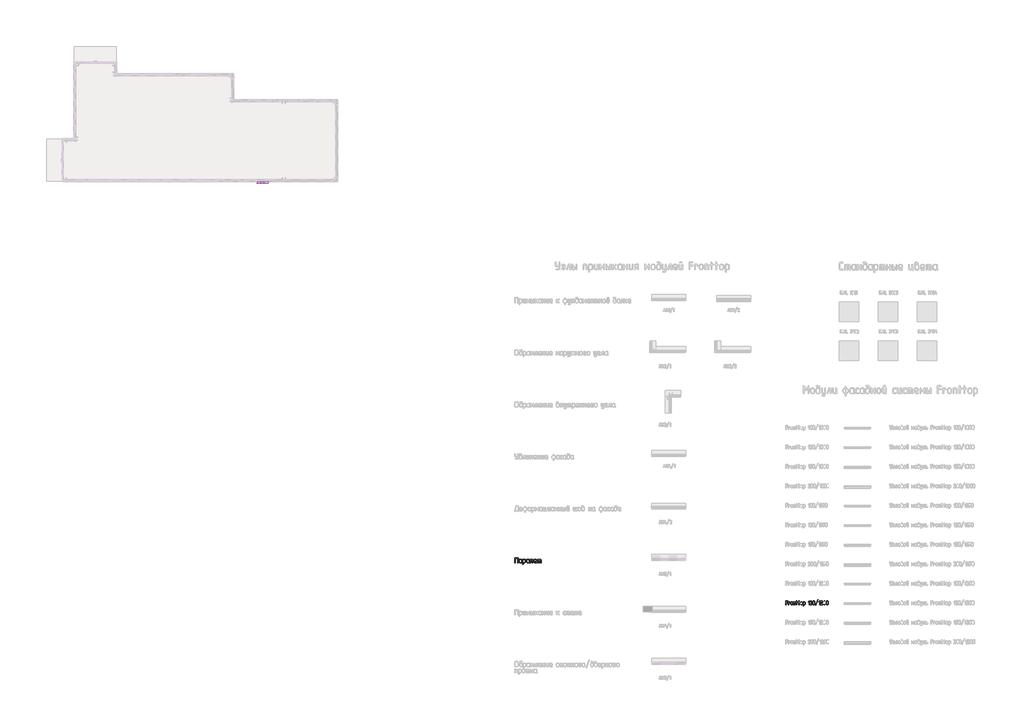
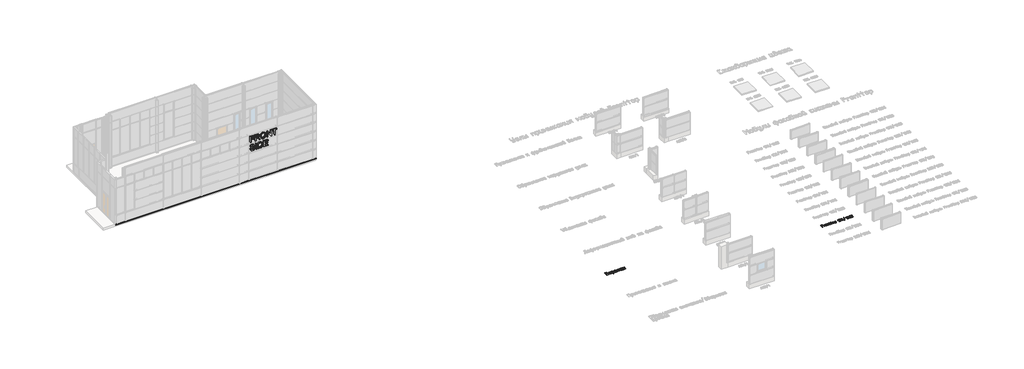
# One storey, part 10 of 37: 6 proxies.
"""IFC4 building model written with IfcOpenShell, lengths in millimetres."""

from ifc_helpers import new_model, si_unit, frame, origin, origin_with_axes, place, context, project, spatial, polyline, outline, extrude, transform, mapped, element, save
from components import generic_models_17d95e17, generic_models_e590158f

model = new_model("IFC4")

# Units and contexts
model_context = context("Model", 3, world=origin())
ifc_project = project(units=[si_unit("LENGTHUNIT", "METRE", prefix="MILLI")], contexts=[model_context])

# Site, building, storey
site = spatial("IfcSite", under=ifc_project)
building = spatial("IfcBuilding", under=site)
storey = spatial("IfcBuildingStorey", under=building, Name="Этаж 01", Elevation=0.0)

# Proxies
placement = place(None, origin())
element("IfcBuildingElementProxy", 1, Name="600 мм Arial", ObjectType="600 мм Arial", at=placement, inside=storey, context=model_context, shape_type="SweptSolid", body=[
    extrude(outline(polyline([(4280.0307982, 14627.1251164), (4280.0307982, 14702.467349), (4553.1463914, 14702.467349), (4553.1463914, 14985.0007213), (4628.488624, 14985.0007213), (4628.488624, 14702.467349), (4807.4264265, 14702.467349), (4807.4264265, 15032.0896166), (4882.7686591, 15032.0896166), (4882.7686591, 14627.1251164), (4280.0307982, 14627.1251164)])), frame((0.0, -300.0, 0.0), z_axis=(0.0, 1.0, 0.0), x_axis=(0.0, 0.0, 1.0)), (0.0, 0.0, 1.0), 150.0),
    extrude(outline(polyline([(4280.0307982, 15135.6851865), (4280.0307982, 15211.0274191), (4543.7286123, 15211.0274191), (4543.7286123, 15301.9678483), (4541.0798619, 15345.6722293), (4526.7324641, 15381.5039357), (4511.778061, 15400.2475233), (4487.6633962, 15421.3087675), (4404.9635237, 15477.9625948), (4280.0307982, 15556.3950362), (4280.0307982, 15643.950951), (4443.370404, 15543.4455899), (4484.3156701, 15513.2424781), (4520.9199286, 15482.3771787), (4536.9227954, 15464.3877492), (4553.1463914, 15439.5557145), (4561.1202336, 15479.4479184), (4573.1223837, 15513.775907), (4589.1528417, 15542.5396805), (4609.2116075, 15565.7392388), (4632.55372, 15583.6045082), (4658.4342184, 15596.3654149), (4686.8531025, 15604.021959), (4717.8103724, 15606.5741403), (4742.2147443, 15605.0336345), (4765.5430613, 15600.4121169), (4787.7953235, 15592.7095876), (4808.9715308, 15581.9260466), (4828.0462123, 15568.5627332), (4843.9938968, 15553.1208864), (4856.8145843, 15535.6005064), (4866.5082749, 15516.0015931), (4878.703563, 15465.2154837), (4882.7686591, 15395.4098751), (4882.7686591, 15135.6851865), (4280.0307982, 15135.6851865)]), holes=[polyline([(4619.0708449, 15211.0274191), (4807.4264265, 15211.0274191), (4807.4264265, 15398.6472366), (4805.7985486, 15430.7679333), (4800.9149151, 15458.262514), (4792.775526, 15481.1309785), (4781.3803812, 15499.3733269), (4767.4652447, 15513.311456), (4751.7658806, 15523.2672625), (4734.2822888, 15529.2407464), (4715.0144693, 15531.2319077), (4688.3982069, 15527.0564471), (4663.8788719, 15514.5300651), (4643.608574, 15493.9654616), (4629.7394228, 15465.6753362), (4621.7379894, 15428.0961904), (4619.0708449, 15379.6645257), (4619.0708449, 15211.0274191)])]), frame((0.0, -300.0, 0.0), z_axis=(0.0, 1.0, 0.0), x_axis=(0.0, 0.0, 1.0)), (0.0, 0.0, 1.0), 150.0),
    extrude(outline(polyline([(4573.4534775, 15710.1697102), (4534.3890082, 15712.3218198), (4496.3638054, 15718.7781488), (4459.3778693, 15729.5386972), (4423.4311999, 15744.6034649), (4389.8711649, 15763.8436933), (4360.0451321, 15787.1306235), (4333.9531016, 15814.4642558), (4311.5950734, 15845.84459), (4293.6654246, 15880.3703152), (4280.8585327, 15917.1401206), (4273.1743975, 15956.1540062), (4270.6130191, 15997.411972), (4272.9306757, 16035.8878302), (4279.8836454, 16073.0301161), (4291.4719282, 16108.8388298), (4307.6955242, 16143.3139713), (4328.4256746, 16175.2001432), (4353.5336208, 16203.2419483), (4383.0193627, 16227.4393865), (4416.8829004, 16247.7924579), (4454.1401494, 16263.9194849), (4493.8070256, 16275.4387898), (4535.8835288, 16282.3503728), (4580.369659, 16284.6542338), (4624.2763752, 16282.465336), (4665.7918583, 16275.8986423), (4704.9161085, 16264.954153), (4741.6491257, 16249.6318679), (4775.2275548, 16230.1341221), (4804.8880407, 16206.6632508), (4830.6305833, 16179.219254), (4852.4551827, 16147.8021316), (4869.8376069, 16113.3775739), (4882.2536243, 16076.9112711), (4889.7032347, 16038.4032233), (4892.1864381, 15997.8534304), (4886.8981345, 15937.2724628), (4871.0332234, 15882.5224249), (4844.591705, 15833.6033166), (4807.5735792, 15790.5151379), (4785.4063898, 15771.6841783), (4761.2112508, 15755.3640133), (4706.7371244, 15730.2560671), (4644.1511999, 15715.1912994), (4573.4534775, 15710.1697102)]), holes=[polyline([(4572.7177135, 15785.5119428), (4633.7907233, 15789.4390831), (4685.455151, 15801.220504), (4727.7109966, 15820.8562055), (4760.5582603, 15848.3461875), (4785.1833613, 15881.2808232), (4802.7727192, 15917.2504852), (4813.3263339, 15956.2551738), (4816.8442055, 15998.2948888), (4815.0185911, 16028.2174906), (4809.5417479, 16056.6225791), (4800.4136759, 16083.5101544), (4787.6343751, 16108.8802165), (4771.5349393, 16132.0153955), (4752.4464623, 16152.1983215), (4730.368944, 16169.4289944), (4705.3023846, 16183.7074143), (4677.6100674, 16194.9094211), (4647.6552759, 16202.9108545), (4615.4380102, 16207.7117145), (4580.9582702, 16209.3120012), (4527.8820954, 16205.5734004), (4481.2254613, 16194.3575981), (4440.9883681, 16175.6645942), (4407.1708157, 16149.4943888), (4380.3890065, 16117.5300419), (4361.2591427, 16081.4546138), (4349.7812245, 16041.2681043), (4345.9552517, 15996.9705136), (4349.7444363, 15953.4178839), (4361.1119899, 15913.700424), (4380.0579127, 15877.8181339), (4406.5822045, 15845.7710136), (4439.7007811, 15819.4076701), (4478.4295582, 15800.5767105), (4522.7685356, 15789.2781347), (4572.7177135, 15785.5119428)])]), frame((0.0, -300.0, 0.0), z_axis=(0.0, 1.0, 0.0), x_axis=(0.0, 0.0, 1.0)), (0.0, 0.0, 1.0), 150.0),
    extrude(outline(polyline([(4280.0307982, 16388.2498037), (4280.0307982, 16463.5920363), (4757.6887807, 16463.5920363), (4280.0307982, 16778.4990241), (4280.0307982, 16859.1387575), (4882.7686591, 16859.1387575), (4882.7686591, 16783.7965249), (4405.2578293, 16783.7965249), (4882.7686591, 16468.889537), (4882.7686591, 16388.2498037), (4280.0307982, 16388.2498037)])), frame((0.0, -300.0, 0.0), z_axis=(0.0, 1.0, 0.0), x_axis=(0.0, 0.0, 1.0)), (0.0, 0.0, 1.0), 150.0),
    extrude(outline(polyline([(4280.0307982, 17141.6721298), (4280.0307982, 17217.0143624), (4807.4264265, 17217.0143624), (4807.4264265, 17414.787723), (4882.7686591, 17414.787723), (4882.7686591, 16943.8987692), (4807.4264265, 16943.8987692), (4807.4264265, 17141.6721298), (4280.0307982, 17141.6721298)])), frame((0.0, -300.0, 0.0), z_axis=(0.0, 1.0, 0.0), x_axis=(0.0, 0.0, 1.0)), (0.0, 0.0, 1.0), 150.0),
])
element("IfcBuildingElementProxy", 2, Name="600 мм Arial", ObjectType="600 мм Arial", at=placement, inside=storey, context=model_context, shape_type="SweptSolid", body=[
    extrude(outline(polyline([(3538.3785756, 14621.2528081), (3507.1270001, 14623.8923614), (3477.5308936, 14630.1923406), (3449.590256, 14640.1527456), (3423.3050875, 14653.7735765), (3399.4479401, 14670.6823527), (3378.7913661, 14690.5065937), (3361.3353654, 14713.2462995), (3347.0799381, 14738.9014702), (3336.00669, 14767.6468496), (3328.0972271, 14799.6571817), (3323.3515494, 14834.9324665), (3321.7696568, 14873.472704), (3327.6373746, 14933.6030161), (3334.9720219, 14961.3091289), (3345.2405281, 14987.4425461), (3358.1531861, 15011.3088906), (3373.4202889, 15032.2137849), (3391.0418365, 15050.1572293), (3411.0178288, 15065.1392235), (3432.5159329, 15076.9528341), (3454.7038158, 15085.3911273), (3477.5814773, 15090.4541033), (3501.1489176, 15092.141762), (3546.5823441, 15086.2740441), (3567.1745387, 15078.9393968), (3586.3503877, 15068.6708907), (3604.0179205, 15055.3121757), (3620.0851667, 15038.7069022), (3647.4187989, 14995.7566792), (3665.0403465, 14945.5039987), (3685.237068, 14862.4362442), (3706.5006474, 14781.9436636), (3716.9668901, 14755.9344066), (3727.3227683, 14739.416505), (3738.2580606, 14728.9226711), (3750.6096986, 14721.4270754), (3764.3776822, 14716.929718), (3779.5620116, 14715.4305989), (3797.2111503, 14717.5459204), (3813.5175198, 14723.8918848), (3828.4811199, 14734.4684921), (3842.1019508, 14749.2757424), (3853.4327162, 14768.7091088), (3861.5261201, 14793.1640645), (3866.3821625, 14822.6406093), (3868.0008432, 14857.1387434), (3866.3637684, 14890.5700197), (3861.4525437, 14919.6418944), (3853.2671693, 14944.3543674), (3841.8076452, 14964.7074388), (3827.1475477, 14981.0046112), (3809.3604532, 14993.5493872), (3788.4463618, 15002.3417669), (3764.4052734, 15007.3817503), (3764.4052734, 15082.7239829), (3790.0558455, 15080.0844296), (3814.3268601, 15074.2259088), (3837.2183173, 15065.1484206), (3858.730217, 15052.8519649), (3878.2923421, 15037.4561034), (3895.3344755, 15019.0803977), (3909.8566172, 14997.7248479), (3921.8587673, 14973.3894539), (3937.9719987, 14917.7656962), (3943.3430759, 14854.1956875), (3938.211122, 14795.5185092), (3922.8152605, 14742.5067137), (3911.3557364, 14718.9208793), (3897.5049793, 14698.3424802), (3881.2629892, 14680.7715164), (3862.6297661, 14666.2079879), (3842.428446, 14654.7806535), (3821.4821649, 14646.6182717), (3799.7909228, 14641.7208426), (3777.3547196, 14640.0883663), (3737.8809815, 14645.3674729), (3702.4539454, 14661.2047928), (3671.7357988, 14687.784267), (3646.3887293, 14725.2898364), (3628.2705411, 14771.3670563), (3609.2326478, 14843.3799568), (3580.4642758, 14953.0823678), (3564.8476851, 14985.2352542), (3546.2512503, 15004.2915415), (3524.454242, 15013.6725324), (3499.2359313, 15016.7995293), (3473.3554329, 15012.6240687), (3448.6889451, 15000.0976868), (3427.2046366, 14979.0364425), (3410.870676, 14949.256395), (3400.5515861, 14912.5049837), (3397.1118894, 14870.5296481), (3401.6552321, 14822.8521415), (3415.28526, 14780.17783), (3436.2913219, 14745.2658287), (3462.9627665, 14720.8752524), (3496.5687868, 14705.2402676), (3538.3785756, 14696.5950407), (3538.3785756, 14621.2528081)])), frame((0.0, -300.0, 0.0), z_axis=(0.0, 1.0, 0.0), x_axis=(0.0, 0.0, 1.0)), (0.0, 0.0, 1.0), 150.0),
    extrude(outline(polyline([(15289.9151226, -300.0), (15214.5728899, -300.0), (15214.5728899, -150.0), (15289.9151226, -150.0), (15289.9151226, -300.0)])), frame((0.0, 0.0, 3331.1874359), z_axis=(0.0, 0.0, 1.0), x_axis=(1.0, 0.0, 0.0)), (0.0, 0.0, 1.0), 602.7378609),
    extrude(outline(polyline([(3331.1874359, 15440.5995878), (3331.1874359, 15658.5328817), (3333.7626098, 15710.1283315), (3341.4881317, 15755.4329993), (3354.1984547, 15794.5204612), (3371.7280317, 15827.4642939), (3395.3644499, 15856.1590895), (3426.3952962, 15882.4994404), (3465.7034874, 15905.3817005), (3514.1719403, 15923.7022238), (3571.101679, 15935.7319651), (3635.7937279, 15939.7418788), (3711.9453009, 15933.8189787), (3746.6549671, 15926.4153536), (3779.1205532, 15916.0502783), (3809.0661476, 15902.705359), (3836.2158389, 15886.3622013), (3860.5696269, 15867.0208054), (3882.1275119, 15844.6811713), (3908.5046509, 15804.1405754), (3925.2432817, 15756.0951868), (3931.754793, 15710.6617604), (3933.9252968, 15648.5264915), (3933.9252968, 15440.5995878), (3331.1874359, 15440.5995878)]), holes=[polyline([(3406.5296685, 15515.9418204), (3858.5830642, 15515.9418204), (3858.5830642, 15647.2021163), (3855.5664318, 15710.6985486), (3846.5165347, 15754.0350477), (3835.9951097, 15776.1953394), (3821.3534063, 15796.6173886), (3802.5914245, 15815.3011954), (3779.7091644, 15832.2467598), (3752.0812266, 15846.3136476), (3719.0822116, 15856.3614246), (3680.7121195, 15862.3900908), (3636.9709503, 15864.3996462), (3575.0012282, 15860.297762), (3523.0011082, 15847.9921092), (3480.7866492, 15828.3288166), (3448.1739103, 15802.1540126), (3430.5523628, 15777.8002246), (3417.4189755, 15746.2359494), (3409.2519953, 15704.4077665), (3406.5296685, 15649.2622554), (3406.5296685, 15515.9418204)])]), frame((0.0, -300.0, 0.0), z_axis=(0.0, 1.0, 0.0), x_axis=(0.0, 0.0, 1.0)), (0.0, 0.0, 1.0), 150.0),
    extrude(outline(polyline([(3331.1874359, 16043.3374487), (3331.1874359, 16485.9730653), (3406.5296685, 16485.9730653), (3406.5296685, 16118.6796813), (3604.3030291, 16118.6796813), (3604.3030291, 16457.719728), (3679.6452617, 16457.719728), (3679.6452617, 16118.6796813), (3858.5830642, 16118.6796813), (3858.5830642, 16476.5552862), (3933.9252968, 16476.5552862), (3933.9252968, 16043.3374487), (3331.1874359, 16043.3374487)])), frame((0.0, -300.0, 0.0), z_axis=(0.0, 1.0, 0.0), x_axis=(0.0, 0.0, 1.0)), (0.0, 0.0, 1.0), 150.0),
])
element("IfcBuildingElementProxy", 3, Name="400 мм ГОСТ 2.304", ObjectType="400 мм ГОСТ 2.304", at=placement, inside=storey, context=model_context, shape_type="SweptSolid", body=[
    extrude(outline(polyline([(35529.9614469, -29490.1102375), (35528.5584312, -29498.8696058), (35524.3493841, -29505.1262975), (35509.9400336, -29510.1316508), (35496.0868334, -29504.8229428), (35491.4606735, -29498.4904124), (35489.9186202, -29490.1102375), (35489.9186202, -29147.926082), (35329.1406039, -29147.926082), (35329.1406039, -29490.1102375), (35327.7375882, -29498.8696058), (35323.528541, -29505.1262975), (35309.1191905, -29510.1316508), (35294.6592809, -29504.8229428), (35290.033121, -29498.4904124), (35288.4910677, -29490.1102375), (35288.4910677, -29127.9046686), (35289.7803253, -29118.8798649), (35293.6480984, -29112.4335765), (35300.0943868, -29108.5658034), (35309.1191905, -29107.2765458), (35509.9400336, -29107.2765458), (35518.6994019, -29108.5658034), (35524.9560936, -29112.4335765), (35529.9614469, -29127.9046686), (35529.9614469, -29490.1102375)])), origin_with_axes(), (0.0, 0.0, 1.0), 20.0),
    extrude(outline(polyline([(35792.868895, -29483.6386695), (35780.9369416, -29494.2813653), (35766.3759137, -29502.7500186), (35750.0453164, -29508.2862428), (35732.8046549, -29510.1316508), (35692.7618282, -29510.1316508), (35661.6932461, -29504.3931902), (35635.6300174, -29487.1778083), (35625.3222759, -29474.7339437), (35617.9596033, -29460.9629021), (35612.0694653, -29429.4392879), (35612.0694653, -29308.7040983), (35617.9596033, -29278.0905483), (35635.6300174, -29252.178997), (35661.6932461, -29234.5085829), (35692.7618282, -29228.6184449), (35793.4756045, -29228.6184449), (35808.4916645, -29233.6237982), (35813.4970179, -29248.6398582), (35813.4970179, -29429.4392879), (35815.4056248, -29442.4709023), (35821.1314457, -29454.4660546), (35829.9666527, -29464.5399602), (35841.2034182, -29471.8078344), (35850.9107701, -29478.9113914), (35854.1465541, -29489.503528), (35848.5344912, -29504.2667924), (35842.1261222, -29509.1204684), (35834.1251407, -29510.7383603), (35825.8334443, -29508.4126406), (35807.2782455, -29497.7699449), (35792.868895, -29483.6386695)]), holes=[polyline([(35773.4541911, -29429.4392879), (35773.4541911, -29268.6612716), (35692.7618282, -29268.6612716), (35677.0758598, -29271.6063406), (35664.1959228, -29280.4415476), (35655.5882318, -29293.3973233), (35652.7190015, -29308.7040983), (35652.7190015, -29429.4392879), (35655.5882318, -29445.201095), (35664.1959228, -29458.3085481), (35677.0758598, -29467.1437551), (35692.7618282, -29470.0888241), (35732.8046549, -29470.0888241), (35748.566462, -29467.1437551), (35761.6739151, -29458.3085481), (35770.5091221, -29445.201095), (35773.4541911, -29429.4392879)])]), origin_with_axes(), (0.0, 0.0, 1.0), 20.0),
    extrude(outline(polyline([(35937.4679915, -29510.1316508), (35937.4679915, -29610.8454271), (35936.0649758, -29619.6047955), (35931.8559286, -29625.8614871), (35917.4465781, -29630.8668405), (35902.9866685, -29625.5581324), (35898.3605086, -29619.225602), (35896.8184553, -29610.8454271), (35896.8184553, -29248.6398582), (35898.1077129, -29239.8804899), (35901.975486, -29233.6237982), (35917.4465781, -29228.6184449), (36017.5536449, -29228.6184449), (36048.9255817, -29234.3569055), (36074.6854557, -29251.5722875), (36092.3558698, -29277.6355162), (36098.2460078, -29308.7040983), (36098.2460078, -29429.4392879), (36092.3558698, -29460.9629021), (36084.9931973, -29474.7339437), (36074.6854557, -29487.1778083), (36048.9255817, -29504.3931902), (36017.5536449, -29510.1316508), (35937.4679915, -29510.1316508)]), holes=[polyline([(35937.4679915, -29470.0888241), (36017.5536449, -29470.0888241), (36033.315452, -29467.1437551), (36046.422905, -29458.3085481), (36055.2581121, -29445.201095), (36058.2031811, -29429.4392879), (36058.2031811, -29308.7040983), (36055.2581121, -29293.3973233), (36046.422905, -29280.4415476), (36033.315452, -29271.6063406), (36017.5536449, -29268.6612716), (35937.4679915, -29268.6612716), (35937.4679915, -29470.0888241)])]), origin_with_axes(), (0.0, 0.0, 1.0), 20.0),
    extrude(outline(polyline([(36362.3668749, -29483.6386695), (36350.4349215, -29494.2813653), (36335.8738936, -29502.7500186), (36319.5432963, -29508.2862428), (36302.3026348, -29510.1316508), (36262.2598081, -29510.1316508), (36231.191226, -29504.3931902), (36205.1279973, -29487.1778083), (36194.8202557, -29474.7339437), (36187.4575832, -29460.9629021), (36181.5674452, -29429.4392879), (36181.5674452, -29308.7040983), (36187.4575832, -29278.0905483), (36205.1279973, -29252.178997), (36231.191226, -29234.5085829), (36262.2598081, -29228.6184449), (36362.9735844, -29228.6184449), (36377.9896444, -29233.6237982), (36382.9949977, -29248.6398582), (36382.9949977, -29429.4392879), (36384.9036047, -29442.4709023), (36390.6294256, -29454.4660546), (36399.4646326, -29464.5399602), (36410.701398, -29471.8078344), (36420.40875, -29478.9113914), (36423.6445339, -29489.503528), (36418.0324711, -29504.2667924), (36411.6241021, -29509.1204684), (36403.6231206, -29510.7383603), (36395.3314241, -29508.4126406), (36376.7762254, -29497.7699449), (36362.3668749, -29483.6386695)]), holes=[polyline([(36342.952171, -29429.4392879), (36342.952171, -29268.6612716), (36262.2598081, -29268.6612716), (36246.5738397, -29271.6063406), (36233.6939027, -29280.4415476), (36225.0862117, -29293.3973233), (36222.2169814, -29308.7040983), (36222.2169814, -29429.4392879), (36225.0862117, -29445.201095), (36233.6939027, -29458.3085481), (36246.5738397, -29467.1437551), (36262.2598081, -29470.0888241), (36302.3026348, -29470.0888241), (36318.0644419, -29467.1437551), (36331.171895, -29458.3085481), (36340.007102, -29445.201095), (36342.952171, -29429.4392879)])]), origin_with_axes(), (0.0, 0.0, 1.0), 20.0),
    extrude(outline(polyline([(36667.7439877, -29490.1102375), (36666.340972, -29498.8696058), (36662.1319248, -29505.1262975), (36647.7225743, -29510.1316508), (36633.5660194, -29504.8229428), (36629.1673756, -29498.4904124), (36627.701161, -29490.1102375), (36627.701161, -29308.7040983), (36624.756092, -29293.3973233), (36615.9208849, -29280.4415476), (36602.8134319, -29271.6063406), (36587.0516248, -29268.6612716), (36506.9659713, -29268.6612716), (36506.9659713, -29490.1102375), (36505.5629556, -29498.8696058), (36501.3539085, -29505.1262975), (36486.944558, -29510.1316508), (36472.4846483, -29504.8229428), (36467.8584884, -29498.4904124), (36466.3164351, -29490.1102375), (36466.3164351, -29248.6398582), (36467.6056928, -29239.8804899), (36471.4734658, -29233.6237982), (36486.944558, -29228.6184449), (36587.0516248, -29228.6184449), (36617.6651747, -29234.5085829), (36643.5767261, -29252.178997), (36654.149903, -29264.3195068), (36661.7021723, -29277.7871936), (36666.2335338, -29292.5820574), (36667.7439877, -29308.7040983), (36667.7439877, -29490.1102375)])), origin_with_axes(), (0.0, 0.0, 1.0), 20.0),
    extrude(outline(polyline([(36791.7149613, -29389.3964612), (36791.7149613, -29429.4392879), (36794.5841916, -29445.201095), (36803.1918826, -29458.3085481), (36816.0718196, -29467.1437551), (36831.757788, -29470.0888241), (36932.4715643, -29470.0888241), (36941.2309326, -29471.4918398), (36947.4876243, -29475.700887), (36952.4929776, -29490.1102375), (36947.1842695, -29503.9634376), (36940.8517392, -29508.5895975), (36932.4715643, -29510.1316508), (36831.757788, -29510.1316508), (36800.6892059, -29504.3931902), (36774.6259771, -29487.1778083), (36764.3182356, -29474.7339437), (36756.9555631, -29460.9629021), (36751.0654251, -29429.4392879), (36751.0654251, -29308.7040983), (36756.9555631, -29277.7871936), (36764.3182356, -29264.3195068), (36774.6259771, -29252.178997), (36800.6892059, -29234.5085829), (36831.757788, -29228.6184449), (36871.8006147, -29228.6184449), (36903.1725515, -29234.3569055), (36928.9324255, -29251.5722875), (36946.6028396, -29277.6355162), (36952.4929776, -29308.7040983), (36952.4929776, -29369.3750479), (36947.4876243, -29384.3911079), (36932.4715643, -29389.3964612), (36791.7149613, -29389.3964612)]), holes=[polyline([(36791.7149613, -29349.3536345), (36912.4501509, -29349.3536345), (36912.4501509, -29308.7040983), (36909.5050819, -29293.3973233), (36900.6698749, -29280.4415476), (36887.5624218, -29271.6063406), (36871.8006147, -29268.6612716), (36831.757788, -29268.6612716), (36816.0718196, -29271.6063406), (36803.1918826, -29280.4415476), (36794.5841916, -29293.3973233), (36791.7149613, -29308.7040983), (36791.7149613, -29349.3536345)])]), origin_with_axes(), (0.0, 0.0, 1.0), 20.0),
    extrude(outline(polyline([(37156.5496046, -29268.6612716), (37076.4639512, -29268.6612716), (37076.4639512, -29490.1102375), (37075.0609355, -29498.8696058), (37070.8518884, -29505.1262975), (37056.4425379, -29510.1316508), (37041.9826282, -29504.8229428), (37037.3564683, -29498.4904124), (37035.814415, -29490.1102375), (37035.814415, -29248.6398582), (37037.1036727, -29239.8804899), (37040.9714457, -29233.6237982), (37056.4425379, -29228.6184449), (37237.2419675, -29228.6184449), (37268.6139044, -29234.3569055), (37294.3737784, -29251.5722875), (37312.0441924, -29277.6355162), (37317.9343305, -29308.7040983), (37317.9343305, -29490.1102375), (37316.5313148, -29498.8696058), (37312.3222676, -29505.1262975), (37297.9129171, -29510.1316508), (37283.4530075, -29504.8229428), (37278.8268476, -29498.4904124), (37277.2847943, -29490.1102375), (37277.2847943, -29308.7040983), (37274.4155639, -29293.3973233), (37265.807873, -29280.4415476), (37252.927936, -29271.6063406), (37237.2419675, -29268.6612716), (37197.1991408, -29268.6612716), (37197.1991408, -29490.1102375), (37195.7961251, -29498.8696058), (37191.587078, -29505.1262975), (37177.1777275, -29510.1316508), (37162.7178178, -29504.8229428), (37158.0916579, -29498.4904124), (37156.5496046, -29490.1102375), (37156.5496046, -29268.6612716)])), origin_with_axes(), (0.0, 0.0, 1.0), 20.0),
])
element("IfcBuildingElementProxy", 4, Name="300 мм ГОСТ 2.304", ObjectType="300 мм ГОСТ 2.304", at=placement, inside=storey, context=model_context, shape_type="SweptSolid", body=[
    extrude(outline(polyline([(56161.9989869, -32551.9738322), (56264.4173344, -32551.9738322), (56275.3434297, -32556.0573223), (56278.9854614, -32566.5419592), (56275.1227005, -32577.0633842), (56264.4173344, -32581.5515446), (56161.9989869, -32581.5515446), (56161.9989869, -32713.5476044), (56157.9154968, -32724.4736997), (56147.4308599, -32728.1157314), (56136.9094349, -32724.2529705), (56132.4212745, -32713.5476044), (56132.4212745, -32449.9969431), (56136.1736709, -32438.739754), (56147.4308599, -32434.9873577), (56264.4173344, -32434.9873577), (56275.3434297, -32439.291577), (56278.9854614, -32449.9969431), (56275.1227005, -32460.0769098), (56264.4173344, -32464.5650701), (56161.9989869, -32464.5650701), (56161.9989869, -32551.9738322)])), origin_with_axes(), (0.0, 0.0, 1.0), 20.0),
    extrude(outline(polyline([(56457.0403471, -32566.9834176), (56452.9568569, -32577.9095128), (56442.4722201, -32581.5515446), (56431.950795, -32577.6887836), (56427.4626347, -32566.9834176), (56423.3791445, -32556.7195099), (56412.8945077, -32552.4152905), (56369.1901266, -32552.4152905), (56369.1901266, -32713.5476044), (56365.1066365, -32724.4736997), (56354.6219996, -32728.1157314), (56344.1005746, -32724.2529705), (56339.6124142, -32713.5476044), (56339.6124142, -32537.8471635), (56343.3648106, -32526.9210683), (56354.6219996, -32523.2790365), (56412.8945077, -32523.2790365), (56430.0378086, -32526.7003391), (56444.2012654, -32536.1181182), (56453.6190445, -32550.0608458), (56457.0403471, -32566.9834176)])), origin_with_axes(), (0.0, 0.0, 1.0), 20.0),
    extrude(outline(polyline([(56660.405514, -32663.8099587), (56655.6966245, -32688.7891462), (56641.5699559, -32709.7216317), (56620.9685641, -32723.5172065), (56596.0997413, -32728.1157314), (56578.5149819, -32728.1157314), (56553.5909767, -32723.5172065), (56532.6768853, -32709.7216317), (56518.5502167, -32688.7891462), (56513.8413271, -32663.8099587), (56513.8413271, -32587.5848093), (56518.5502167, -32562.9367156), (56532.6768853, -32542.1145947), (56553.9956469, -32527.9879261), (56578.5149819, -32523.2790365), (56596.0997413, -32523.2790365), (56620.7386379, -32527.9971231), (56641.5331677, -32542.1513829), (56655.6874274, -32562.9459127), (56660.405514, -32587.5848093), (56660.405514, -32663.8099587)]), holes=[polyline([(56631.26926, -32663.8099587), (56631.26926, -32587.5848093), (56628.694086, -32574.0835401), (56620.9685641, -32562.7159864), (56609.6010105, -32554.9904645), (56596.0997413, -32552.4152905), (56578.5149819, -32552.4152905), (56565.0229097, -32554.9904645), (56553.6829472, -32562.7159864), (56545.9850165, -32574.0835401), (56543.4190395, -32587.5848093), (56543.4190395, -32663.8099587), (56545.9850165, -32677.3112279), (56553.6829472, -32688.6787816), (56565.0229097, -32696.4043035), (56578.5149819, -32698.9794774), (56596.0997413, -32698.9794774), (56609.6010105, -32696.4043035), (56620.9685641, -32688.6787816), (56628.694086, -32677.3112279), (56631.26926, -32663.8099587)])]), origin_with_axes(), (0.0, 0.0, 1.0), 20.0),
    extrude(outline(polyline([(56867.5966537, -32713.5476044), (56863.5131635, -32724.4736997), (56853.0285267, -32728.1157314), (56842.7278308, -32724.2529705), (56838.4603997, -32713.5476044), (56838.4603997, -32581.5515446), (56836.3174871, -32570.4139172), (56829.8887492, -32560.986941), (56820.3514085, -32554.5582032), (56808.8826873, -32552.4152905), (56750.6101792, -32552.4152905), (56750.6101792, -32713.5476044), (56746.5266891, -32724.4736997), (56736.0420522, -32728.1157314), (56725.5206272, -32724.2529705), (56721.0324668, -32713.5476044), (56721.0324668, -32537.8471635), (56724.7848632, -32526.9210683), (56736.0420522, -32523.2790365), (56808.8826873, -32523.2790365), (56831.7097651, -32527.4544972), (56850.4533527, -32539.9808791), (56863.3108285, -32558.945196), (56867.5966537, -32581.5515446), (56867.5966537, -32713.5476044)])), origin_with_axes(), (0.0, 0.0, 1.0), 20.0),
    extrude(outline(polyline([(56986.9375729, -32523.2790365), (57031.0834124, -32523.2790365), (57042.0095076, -32527.3625267), (57045.6515394, -32537.8471635), (57041.7887784, -32547.9271302), (57031.0834124, -32552.4152905), (56986.9375729, -32552.4152905), (56986.9375729, -32713.5476044), (56982.8540828, -32724.4736997), (56972.3694459, -32728.1157314), (56962.0687501, -32724.2529705), (56957.8013189, -32713.5476044), (56957.8013189, -32552.4152905), (56943.2331919, -32552.4152905), (56932.3070966, -32548.1478594), (56928.2236065, -32537.8471635), (56932.0863675, -32527.5832559), (56943.2331919, -32523.2790365), (56957.8013189, -32523.2790365), (56957.8013189, -32449.9969431), (56962.0687501, -32439.0708478), (56972.3694459, -32434.9873577), (56982.6333536, -32438.8501186), (56986.9375729, -32449.9969431), (56986.9375729, -32523.2790365)])), origin_with_axes(), (0.0, 0.0, 1.0), 20.0),
    extrude(outline(polyline([(57161.1664858, -32523.2790365), (57205.3123253, -32523.2790365), (57216.2384205, -32527.3625267), (57219.8804523, -32537.8471635), (57216.0176913, -32547.9271302), (57205.3123253, -32552.4152905), (57161.1664858, -32552.4152905), (57161.1664858, -32713.5476044), (57157.0829957, -32724.4736997), (57146.5983588, -32728.1157314), (57136.297663, -32724.2529705), (57132.0302318, -32713.5476044), (57132.0302318, -32552.4152905), (57117.4621048, -32552.4152905), (57106.5360096, -32548.1478594), (57102.4525194, -32537.8471635), (57106.3152804, -32527.5832559), (57117.4621048, -32523.2790365), (57132.0302318, -32523.2790365), (57132.0302318, -32449.9969431), (57136.297663, -32439.0708478), (57146.5983588, -32434.9873577), (57156.8622665, -32438.8501186), (57161.1664858, -32449.9969431), (57161.1664858, -32523.2790365)])), origin_with_axes(), (0.0, 0.0, 1.0), 20.0),
    extrude(outline(polyline([(57423.2456192, -32663.8099587), (57418.5367297, -32688.7891462), (57404.4100611, -32709.7216317), (57383.8086693, -32723.5172065), (57358.9398465, -32728.1157314), (57341.3550871, -32728.1157314), (57316.4310819, -32723.5172065), (57295.5169905, -32709.7216317), (57281.3903219, -32688.7891462), (57276.6814323, -32663.8099587), (57276.6814323, -32587.5848093), (57281.3903219, -32562.9367156), (57295.5169905, -32542.1145947), (57316.8357521, -32527.9879261), (57341.3550871, -32523.2790365), (57358.9398465, -32523.2790365), (57383.5787431, -32527.9971231), (57404.3732729, -32542.1513829), (57418.5275326, -32562.9459127), (57423.2456192, -32587.5848093), (57423.2456192, -32663.8099587)]), holes=[polyline([(57394.1093652, -32663.8099587), (57394.1093652, -32587.5848093), (57391.5341912, -32574.0835401), (57383.8086693, -32562.7159864), (57372.4411157, -32554.9904645), (57358.9398465, -32552.4152905), (57341.3550871, -32552.4152905), (57327.8630149, -32554.9904645), (57316.5230524, -32562.7159864), (57308.8251217, -32574.0835401), (57306.2591447, -32587.5848093), (57306.2591447, -32663.8099587), (57308.8251217, -32677.3112279), (57316.5230524, -32688.6787816), (57327.8630149, -32696.4043035), (57341.3550871, -32698.9794774), (57358.9398465, -32698.9794774), (57372.4411157, -32696.4043035), (57383.8086693, -32688.6787816), (57391.5341912, -32677.3112279), (57394.1093652, -32663.8099587)])]), origin_with_axes(), (0.0, 0.0, 1.0), 20.0),
    extrude(outline(polyline([(57513.4502844, -32728.1157314), (57513.4502844, -32801.3978249), (57509.3667943, -32812.3239201), (57498.8821574, -32815.9659519), (57488.3607324, -32812.1031909), (57483.872572, -32801.3978249), (57483.872572, -32537.8471635), (57487.6249684, -32526.9210683), (57498.8821574, -32523.2790365), (57571.7227925, -32523.2790365), (57594.5498703, -32527.4544972), (57613.2934579, -32539.9808791), (57626.1509337, -32558.945196), (57630.4367589, -32581.5515446), (57630.4367589, -32669.401765), (57626.1509337, -32692.3392074), (57613.2934579, -32711.4138889), (57594.5498703, -32723.9402708), (57571.7227925, -32728.1157314), (57513.4502844, -32728.1157314)]), holes=[polyline([(57513.4502844, -32698.9794774), (57571.7227925, -32698.9794774), (57583.1915137, -32696.8365648), (57592.7288544, -32690.4078269), (57599.1575923, -32680.8704862), (57601.3005049, -32669.401765), (57601.3005049, -32581.5515446), (57599.1575923, -32570.4139172), (57592.7288544, -32560.986941), (57583.1915137, -32554.5582032), (57571.7227925, -32552.4152905), (57513.4502844, -32552.4152905), (57513.4502844, -32698.9794774)])]), origin_with_axes(), (0.0, 0.0, 1.0), 20.0),
    extrude(outline(polyline([(57953.1428451, -32713.5476044), (57949.0593549, -32724.4736997), (57938.5747181, -32728.1157314), (57928.4947514, -32724.2529705), (57924.006591, -32713.5476044), (57924.006591, -32485.1664618), (57890.1614475, -32518.570147), (57880.30221, -32523.2790365), (57869.780785, -32518.7908762), (57865.2926246, -32508.2694511), (57870.0015142, -32498.0423317), (57928.2740222, -32439.6962472), (57941.149892, -32433.2951005), (57949.7215425, -32437.5993199), (57953.1428451, -32449.9969431), (57953.1428451, -32713.5476044)])), origin_with_axes(), (0.0, 0.0, 1.0), 20.0),
    extrude(outline(polyline([(58147.0902329, -32548.1478594), (58052.3974074, -32698.9794774), (58143.2642602, -32698.9794774), (58154.1903554, -32703.0629676), (58157.8323872, -32713.5476044), (58153.9696262, -32723.6275711), (58143.2642602, -32728.1157314), (58026.2777857, -32728.1157314), (58014.3584091, -32725.2278578), (58010.3852835, -32716.5642368), (58013.8433743, -32705.3806241), (58121.8535281, -32533.138274), (58127.371758, -32511.2860835), (58123.7297262, -32493.1862893), (58112.803631, -32478.3238567), (58096.3041235, -32468.0047668), (58076.8247718, -32464.5650701), (58054.9725813, -32470.5615466), (58038.2707387, -32486.858719), (58033.3595141, -32491.9906728), (58026.2777857, -32493.7013241), (58015.9770898, -32489.6546222), (58011.2682003, -32479.5746555), (58013.8433743, -32471.4076752), (58025.6339922, -32456.6923954), (58040.4044543, -32445.0673244), (58057.1062969, -32437.5073494), (58074.6910563, -32434.9873577), (58106.0713905, -32440.7814991), (58132.5221059, -32458.1639234), (58150.5115355, -32483.0327463), (58156.508012, -32512.1690003), (58154.1535672, -32530.5814941), (58147.0902329, -32548.1478594)])), origin_with_axes(), (0.0, 0.0, 1.0), 20.0),
    extrude(outline(polyline([(58365.0235269, -32663.8099587), (58360.3146373, -32688.7891462), (58346.1879687, -32709.7216317), (58325.586577, -32723.5172065), (58300.7177541, -32728.1157314), (58283.1329947, -32728.1157314), (58258.2089896, -32723.5172065), (58237.2948981, -32709.7216317), (58223.1682295, -32688.7891462), (58218.45934, -32663.8099587), (58218.45934, -32499.7345888), (58223.1682295, -32475.0864952), (58237.2948981, -32454.2643742), (58258.3929306, -32439.8066118), (58283.1329947, -32434.9873577), (58300.7177541, -32434.9873577), (58325.3566507, -32439.7054443), (58346.1511805, -32453.859704), (58360.3054403, -32474.7645984), (58365.0235269, -32499.7345888), (58365.0235269, -32663.8099587)]), holes=[polyline([(58335.8872728, -32663.8099587), (58335.8872728, -32499.7345888), (58333.3120989, -32486.2333196), (58325.586577, -32474.865766), (58314.2190233, -32467.1402441), (58300.7177541, -32464.5650701), (58283.1329947, -32464.5650701), (58269.6409226, -32467.1402441), (58258.3009601, -32474.865766), (58250.6030293, -32486.2333196), (58248.0370524, -32499.7345888), (58248.0370524, -32663.8099587), (58250.6030293, -32677.3112279), (58258.3009601, -32688.6787816), (58269.6409226, -32696.4043035), (58283.1329947, -32698.9794774), (58300.7177541, -32698.9794774), (58314.2190233, -32696.4043035), (58325.586577, -32688.6787816), (58333.3120989, -32677.3112279), (58335.8872728, -32663.8099587)])]), origin_with_axes(), (0.0, 0.0, 1.0), 20.0),
    extrude(outline(polyline([(58615.4775892, -32367.2970706), (58454.3452753, -32777.4119188), (58448.7902572, -32784.2545239), (58441.1015235, -32786.8296979), (58430.3593692, -32782.7462077), (58425.6504797, -32772.2615709), (58426.5333965, -32766.6697645), (58587.6657103, -32356.6284927), (58593.2207285, -32349.7123112), (58600.9094622, -32347.1371372), (58611.6516164, -32351.4413566), (58616.360506, -32361.7052642), (58615.4775892, -32367.2970706)])), origin_with_axes(), (0.0, 0.0, 1.0), 20.0),
    extrude(outline(polyline([(58777.1985143, -32713.5476044), (58773.1150241, -32724.4736997), (58762.6303873, -32728.1157314), (58752.5504206, -32724.2529705), (58748.0622602, -32713.5476044), (58748.0622602, -32485.1664618), (58714.2171167, -32518.570147), (58704.3578792, -32523.2790365), (58693.8364542, -32518.7908762), (58689.3482938, -32508.2694511), (58694.0571833, -32498.0423317), (58752.3296914, -32439.6962472), (58765.2055612, -32433.2951005), (58773.7772117, -32437.5993199), (58777.1985143, -32449.9969431), (58777.1985143, -32713.5476044)])), origin_with_axes(), (0.0, 0.0, 1.0), 20.0),
    extrude(outline(polyline([(58971.1459021, -32548.1478594), (58876.4530766, -32698.9794774), (58967.3199294, -32698.9794774), (58978.2460246, -32703.0629676), (58981.8880564, -32713.5476044), (58978.0252954, -32723.6275711), (58967.3199294, -32728.1157314), (58850.3334549, -32728.1157314), (58838.4140783, -32725.2278578), (58834.4409527, -32716.5642368), (58837.8990435, -32705.3806241), (58945.9091972, -32533.138274), (58951.4274272, -32511.2860835), (58947.7853954, -32493.1862893), (58936.8593002, -32478.3238567), (58920.3597927, -32468.0047668), (58900.880441, -32464.5650701), (58879.0282505, -32470.5615466), (58862.3264079, -32486.858719), (58857.4151833, -32491.9906728), (58850.3334549, -32493.7013241), (58840.032759, -32489.6546222), (58835.3238695, -32479.5746555), (58837.8990435, -32471.4076752), (58849.6896614, -32456.6923954), (58864.4601235, -32445.0673244), (58881.1619661, -32437.5073494), (58898.7467255, -32434.9873577), (58930.1270597, -32440.7814991), (58956.5777751, -32458.1639234), (58974.5672047, -32483.0327463), (58980.5636812, -32512.1690003), (58978.2092364, -32530.5814941), (58971.1459021, -32548.1478594)])), origin_with_axes(), (0.0, 0.0, 1.0), 20.0),
    extrude(outline(polyline([(59189.0791961, -32663.8099587), (59184.3703065, -32688.7891462), (59170.2436379, -32709.7216317), (59149.6422462, -32723.5172065), (59124.7734233, -32728.1157314), (59107.1886639, -32728.1157314), (59082.2646588, -32723.5172065), (59061.3505673, -32709.7216317), (59047.2238987, -32688.7891462), (59042.5150092, -32663.8099587), (59042.5150092, -32499.7345888), (59047.2238987, -32475.0864952), (59061.3505673, -32454.2643742), (59082.4485998, -32439.8066118), (59107.1886639, -32434.9873577), (59124.7734233, -32434.9873577), (59149.4123199, -32439.7054443), (59170.2068497, -32453.859704), (59184.3611095, -32474.7645984), (59189.0791961, -32499.7345888), (59189.0791961, -32663.8099587)]), holes=[polyline([(59159.942942, -32663.8099587), (59159.942942, -32499.7345888), (59157.3677681, -32486.2333196), (59149.6422462, -32474.865766), (59138.2746925, -32467.1402441), (59124.7734233, -32464.5650701), (59107.1886639, -32464.5650701), (59093.6965918, -32467.1402441), (59082.3566293, -32474.865766), (59074.6586985, -32486.2333196), (59072.0927216, -32499.7345888), (59072.0927216, -32663.8099587), (59074.6586985, -32677.3112279), (59082.3566293, -32688.6787816), (59093.6965918, -32696.4043035), (59107.1886639, -32698.9794774), (59124.7734233, -32698.9794774), (59138.2746925, -32696.4043035), (59149.6422462, -32688.6787816), (59157.3677681, -32677.3112279), (59159.942942, -32663.8099587)])]), origin_with_axes(), (0.0, 0.0, 1.0), 20.0),
    extrude(outline(polyline([(59396.2703357, -32663.8099587), (59391.5614462, -32688.7891462), (59377.4347776, -32709.7216317), (59356.8333859, -32723.5172065), (59331.964563, -32728.1157314), (59314.3798036, -32728.1157314), (59289.4557984, -32723.5172065), (59268.541707, -32709.7216317), (59254.4150384, -32688.7891462), (59249.7061489, -32663.8099587), (59249.7061489, -32499.7345888), (59254.4150384, -32475.0864952), (59268.541707, -32454.2643742), (59289.6397394, -32439.8066118), (59314.3798036, -32434.9873577), (59331.964563, -32434.9873577), (59356.6034596, -32439.7054443), (59377.3979894, -32453.859704), (59391.5522492, -32474.7645984), (59396.2703357, -32499.7345888), (59396.2703357, -32663.8099587)]), holes=[polyline([(59367.1340817, -32663.8099587), (59367.1340817, -32499.7345888), (59364.5589078, -32486.2333196), (59356.8333859, -32474.865766), (59345.4658322, -32467.1402441), (59331.964563, -32464.5650701), (59314.3798036, -32464.5650701), (59300.8877314, -32467.1402441), (59289.5477689, -32474.865766), (59281.8498382, -32486.2333196), (59279.2838613, -32499.7345888), (59279.2838613, -32663.8099587), (59281.8498382, -32677.3112279), (59289.5477689, -32688.6787816), (59300.8877314, -32696.4043035), (59314.3798036, -32698.9794774), (59331.964563, -32698.9794774), (59345.4658322, -32696.4043035), (59356.8333859, -32688.6787816), (59364.5589078, -32677.3112279), (59367.1340817, -32663.8099587)])]), origin_with_axes(), (0.0, 0.0, 1.0), 20.0),
])
generic_models_shape = generic_models_17d95e17(model_context)
element("IfcBuildingElementProxy", 5, Name="АК1_1 Примыкание к фундаментной балке : АК1_1 Примыкание к фундаментной балке", ObjectType="АК1_1 Примыкание к фундаментной балке : АК1_1 Примыкание к фундаментной балке", at=placement, inside=storey, context=model_context, shape_type="MappedRepresentation", body=[
    mapped(generic_models_shape, transform((540.0, -120.0, 0.0), x_axis=(1.0, 0.0, 0.0), y_axis=(0.0, 1.0, 0.0), z_axis=(0.0, 0.0, 1.0))),
])
generic_models_2_shape = generic_models_e590158f(model_context)
element("IfcBuildingElementProxy", 6, Name="АК1_1 Примыкание к фундаментной балке : АК1_1 Примыкание к фундаментной балке", ObjectType="АК1_1 Примыкание к фундаментной балке : АК1_1 Примыкание к фундаментной балке", at=placement, inside=storey, context=model_context, shape_type="MappedRepresentation", body=[
    mapped(generic_models_2_shape, transform((21620.0, -120.0, 0.0), x_axis=(0.0, 1.0, 0.0), y_axis=(-1.0, 0.0, 0.0), z_axis=(0.0, 0.0, 1.0))),
])

save(model, "model.ifc")
